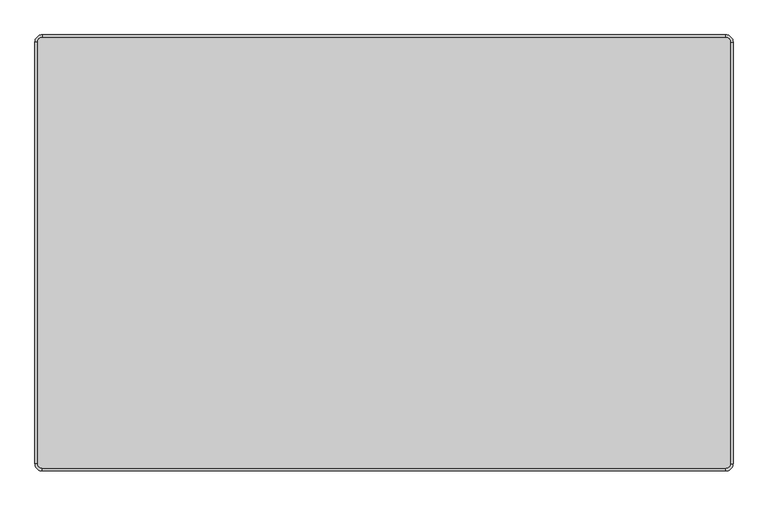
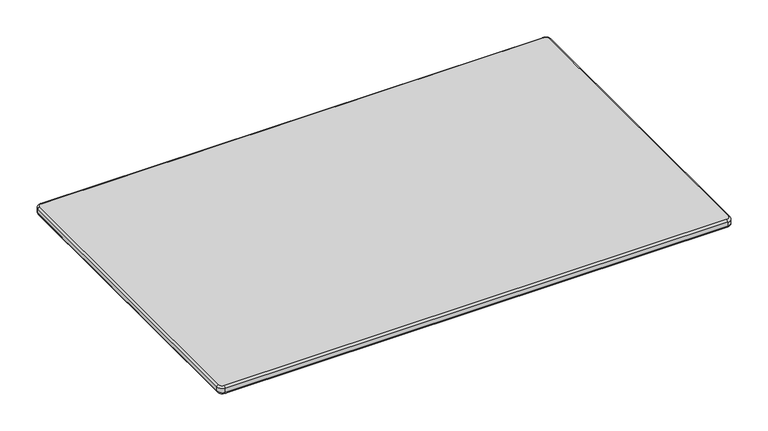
"""IFC4 building model written with IfcOpenShell, lengths in millimetres: furniture geometry, SSL-Childcraft_Outdoor-Table-Rectangle : 2161355."""

from ifc_helpers import new_model, si_unit, point, frame, origin, place, context, project, spatial, circle_curve, ellipse_curve, trimmed, source, transform, mapped, element, save
from ifc_brep_helpers import plane_surface, cylinder_surface, revolved_surface, advanced_brep


def furniture_6a51af63(model_context):
    return source(origin(), model_context, "Body", "AdvancedBrep", [
        advanced_brep(
        [(604.8375, 368.3, 609.6), (596.9, 376.2375, 609.6), (-596.9, 376.2375, 609.6), (-604.8375, 368.3, 609.6), (-604.8375, -368.3, 609.6), (-596.9, -376.2375, 609.6), (596.9, -376.2375, 609.6), (604.8375, -368.3, 609.6), (596.9, 376.2375, 590.55), (604.8375, 368.3, 590.55), (604.8375, -368.3, 590.55), (596.9, -376.2375, 590.55), (-596.9, -376.2375, 590.55), (-604.8375, -368.3, 590.55), (-604.8375, 368.3, 590.55), (-596.9, 376.2375, 590.55), (609.6, 368.3, 595.3125), (609.6, 368.3, 604.8375), (609.6, -368.3, 604.8375), (609.6, -368.3, 595.3125), (596.9, -381.0, 595.3125), (596.9, -381.0, 604.8375), (-596.9, -381.0, 604.8375), (-596.9, -381.0, 595.3125), (-609.6, -368.3, 604.8375), (-609.6, -368.3, 595.3125), (-609.6, 368.3, 604.8375), (-609.6, 368.3, 595.3125), (-596.9, 381.0, 595.3125), (-596.9, 381.0, 604.8375), (596.9, 381.0, 604.8375), (596.9, 381.0, 595.3125)],
        [
            (0, 1, circle_curve(frame((596.9, 368.3, 609.6), z_axis=(0.0, 0.0, 1.0), x_axis=(0.0, 1.0, 0.0)), 7.9375)),
            (1, 2),
            (2, 3, circle_curve(frame((-596.9, 368.3, 609.6), z_axis=(0.0, 0.0, 1.0), x_axis=(-1.0, 0.0, 0.0)), 7.9375)),
            (3, 4),
            (4, 5, circle_curve(frame((-596.9, -368.3, 609.6), z_axis=(0.0, 0.0, 1.0), x_axis=(0.0, -1.0, 0.0)), 7.9375)),
            (5, 6),
            (6, 7, circle_curve(frame((596.9, -368.3, 609.6), z_axis=(0.0, 0.0, 1.0), x_axis=(1.0, 0.0, 0.0)), 7.9375)),
            (7, 0),
            (8, 9, circle_curve(frame((596.9, 368.3, 590.55), z_axis=(0.0, 0.0, -1.0), x_axis=(0.0, 1.0, 0.0)), 7.9375)),
            (9, 10),
            (10, 11, circle_curve(frame((596.9, -368.3, 590.55), z_axis=(0.0, 0.0, -1.0), x_axis=(1.0, 0.0, 0.0)), 7.9375)),
            (11, 12),
            (12, 13, circle_curve(frame((-596.9, -368.3, 590.55), z_axis=(0.0, 0.0, -1.0), x_axis=(0.0, -1.0, 0.0)), 7.9375)),
            (13, 14),
            (14, 15, circle_curve(frame((-596.9, 368.3, 590.55), z_axis=(0.0, 0.0, -1.0), x_axis=(-1.0, 0.0, 0.0)), 7.9375)),
            (15, 8),
            (16, 17),
            (17, 18),
            (18, 19),
            (19, 16),
            (20, 21),
            (21, 22),
            (22, 23),
            (23, 20),
            (22, 24, circle_curve(frame((-596.9, -368.3, 604.8375), z_axis=(0.0, 0.0, -1.0), x_axis=(0.0, -1.0, 0.0)), 12.7)),
            (24, 25),
            (25, 23, circle_curve(frame((-596.9, -368.3, 595.3125), z_axis=(0.0, 0.0, 1.0), x_axis=(0.0, -1.0, 0.0)), 12.7)),
            (24, 26),
            (26, 27),
            (27, 25),
            (28, 29),
            (29, 30),
            (30, 31),
            (31, 28),
            (17, 30, circle_curve(frame((596.9, 368.3, 604.8375), z_axis=(0.0, 0.0, 1.0), x_axis=(0.0, 1.0, 0.0)), 12.7)),
            (30, 1, circle_curve(frame((596.9, 376.2375, 604.8375), z_axis=(1.0, 0.0, 0.0), x_axis=(0.0, 1.0, 0.0)), 4.7625)),
            (0, 17, circle_curve(frame((604.8375, 368.3, 604.8375), z_axis=(0.0, 1.0, 0.0), x_axis=(1.0, 0.0, 0.0)), 4.7625)),
            (16, 31, circle_curve(frame((596.9, 368.3, 595.3125), z_axis=(0.0, 0.0, 1.0), x_axis=(0.0, 1.0, 0.0)), 12.7)),
            (16, 9, circle_curve(frame((604.8375, 368.3, 595.3125), z_axis=(0.0, 1.0, 0.0), x_axis=(1.0, 0.0, 0.0)), 4.7625)),
            (8, 31, circle_curve(frame((596.9, 376.2375, 595.3125), z_axis=(1.0, 0.0, 0.0), x_axis=(0.0, 1.0, 0.0)), 4.7625)),
            (7, 18, circle_curve(frame((604.8375, -368.3, 604.8375), z_axis=(0.0, 1.0, 0.0), x_axis=(1.0, 0.0, 0.0)), 4.7625)),
            (19, 10, circle_curve(frame((604.8375, -368.3, 595.3125), z_axis=(0.0, 1.0, 0.0), x_axis=(1.0, 0.0, 0.0)), 4.7625)),
            (6, 21, circle_curve(frame((596.9, -376.2375, 604.8375), z_axis=(1.0, 0.0, 0.0), x_axis=(0.0, -1.0, 0.0)), 4.7625)),
            (21, 18, circle_curve(frame((596.9, -368.3, 604.8375), z_axis=(0.0, 0.0, 1.0), x_axis=(1.0, 0.0, 0.0)), 12.7)),
            (20, 19, circle_curve(frame((596.9, -368.3, 595.3125), z_axis=(0.0, 0.0, 1.0), x_axis=(1.0, 0.0, 0.0)), 12.7)),
            (20, 11, circle_curve(frame((596.9, -376.2375, 595.3125), z_axis=(1.0, 0.0, 0.0), x_axis=(0.0, -1.0, 0.0)), 4.7625)),
            (5, 22, circle_curve(frame((-596.9, -376.2375, 604.8375), z_axis=(1.0, 0.0, 0.0), x_axis=(0.0, -1.0, 0.0)), 4.7625)),
            (23, 12, circle_curve(frame((-596.9, -376.2375, 595.3125), z_axis=(1.0, 0.0, 0.0), x_axis=(0.0, -1.0, 0.0)), 4.7625)),
            (4, 24, circle_curve(frame((-604.8375, -368.3, 604.8375), z_axis=(0.0, -1.0, 0.0), x_axis=(-1.0, 0.0, 0.0)), 4.7625)),
            (25, 13, circle_curve(frame((-604.8375, -368.3, 595.3125), z_axis=(0.0, -1.0, 0.0), x_axis=(-1.0, 0.0, 0.0)), 4.7625)),
            (3, 26, circle_curve(frame((-604.8375, 368.3, 604.8375), z_axis=(0.0, -1.0, 0.0), x_axis=(-1.0, 0.0, 0.0)), 4.7625)),
            (27, 14, circle_curve(frame((-604.8375, 368.3, 595.3125), z_axis=(0.0, -1.0, 0.0), x_axis=(-1.0, 0.0, 0.0)), 4.7625)),
            (2, 29, circle_curve(frame((-596.9, 376.2375, 604.8375), z_axis=(-1.0, 0.0, 0.0), x_axis=(0.0, 1.0, 0.0)), 4.7625)),
            (29, 26, circle_curve(frame((-596.9, 368.3, 604.8375), z_axis=(0.0, 0.0, 1.0), x_axis=(-1.0, 0.0, 0.0)), 12.7)),
            (28, 27, circle_curve(frame((-596.9, 368.3, 595.3125), z_axis=(0.0, 0.0, 1.0), x_axis=(-1.0, 0.0, 0.0)), 12.7)),
            (28, 15, circle_curve(frame((-596.9, 376.2375, 595.3125), z_axis=(-1.0, 0.0, 0.0), x_axis=(0.0, 1.0, 0.0)), 4.7625)),
        ],
        [
            plane_surface(frame((-596.9, 371.475, 609.6), z_axis=(0.0, 0.0, 1.0), x_axis=(-1.0, 0.0, 0.0))),
            plane_surface(frame((-596.9, 371.475, 590.55), z_axis=(0.0, 0.0, -1.0), x_axis=(1.0, 0.0, 0.0))),
            plane_surface(frame((609.6, 368.3, 604.8375), z_axis=(1.0, 0.0, 0.0), x_axis=(0.0, -1.0, 0.0))),
            plane_surface(frame((596.9, -381.0, 604.8375), z_axis=(0.0, -1.0, 0.0), x_axis=(-1.0, 0.0, 0.0))),
            cylinder_surface(frame((-596.9, -368.3, 0.0), z_axis=(0.0, 0.0, -1.0), x_axis=(0.0, -1.0, 0.0)), 12.7),
            plane_surface(frame((-609.6, -368.3, 604.8375), z_axis=(-1.0, 0.0, 0.0), x_axis=(0.0, 1.0, 0.0))),
            plane_surface(frame((-596.9, 381.0, 604.8375), z_axis=(0.0, 1.0, 0.0), x_axis=(1.0, 0.0, 0.0))),
            revolved_surface(trimmed(ellipse_curve(frame((596.9, 376.2375, 604.8375), z_axis=(-1.0, 0.0, 0.0), x_axis=(0.0, 1.0, 0.0)), 4.7625, 4.7625), [point((596.9, 376.2375, 609.6))], [point((596.9, 381.0, 604.8375))], True, "CARTESIAN"), (596.9, 368.3, 0.0), (0.0, 0.0, -1.0)),
            cylinder_surface(frame((596.9, 368.3, 0.0), z_axis=(0.0, 0.0, -1.0), x_axis=(0.0, 1.0, 0.0)), 12.7),
            revolved_surface(trimmed(ellipse_curve(frame((596.9, 376.2375, 595.3125), z_axis=(-1.0, 0.0, 0.0), x_axis=(0.0, 1.0, 0.0)), 4.7625, 4.7625), [point((596.9, 381.0, 595.3125))], [point((596.9, 376.2375, 590.55))], True, "CARTESIAN"), (596.9, 368.3, 0.0), (0.0, 0.0, -1.0)),
            cylinder_surface(frame((604.8375, 368.3, 604.8375), z_axis=(0.0, 1.0, 0.0), x_axis=(1.0, 0.0, 0.0)), 4.7625),
            cylinder_surface(frame((604.8375, 368.3, 595.3125), z_axis=(0.0, 1.0, 0.0), x_axis=(1.0, 0.0, 0.0)), 4.7625),
            revolved_surface(trimmed(ellipse_curve(frame((604.8375, -368.3, 604.8375), z_axis=(0.0, 1.0, 0.0), x_axis=(1.0, 0.0, 0.0)), 4.7625, 4.7625), [point((604.8375, -368.3, 609.6))], [point((609.6, -368.3, 604.8375))], True, "CARTESIAN"), (596.9, -368.3, 0.0), (0.0, 0.0, -1.0)),
            cylinder_surface(frame((596.9, -368.3, 0.0), z_axis=(0.0, 0.0, -1.0), x_axis=(1.0, 0.0, 0.0)), 12.7),
            revolved_surface(trimmed(ellipse_curve(frame((604.8375, -368.3, 595.3125), z_axis=(0.0, 1.0, 0.0), x_axis=(1.0, 0.0, 0.0)), 4.7625, 4.7625), [point((609.6, -368.3, 595.3125))], [point((604.8375, -368.3, 590.55))], True, "CARTESIAN"), (596.9, -368.3, 0.0), (0.0, 0.0, -1.0)),
            cylinder_surface(frame((596.9, -376.2375, 604.8375), z_axis=(1.0, 0.0, 0.0), x_axis=(0.0, -1.0, 0.0)), 4.7625),
            cylinder_surface(frame((596.9, -376.2375, 595.3125), z_axis=(1.0, 0.0, 0.0), x_axis=(0.0, -1.0, 0.0)), 4.7625),
            revolved_surface(trimmed(ellipse_curve(frame((-596.9, -376.2375, 604.8375), z_axis=(1.0, 0.0, 0.0), x_axis=(0.0, -1.0, 0.0)), 4.7625, 4.7625), [point((-596.9, -376.2375, 609.6))], [point((-596.9, -381.0, 604.8375))], True, "CARTESIAN"), (-596.9, -368.3, 0.0), (0.0, 0.0, -1.0)),
            revolved_surface(trimmed(ellipse_curve(frame((-596.9, -376.2375, 595.3125), z_axis=(1.0, 0.0, 0.0), x_axis=(0.0, -1.0, 0.0)), 4.7625, 4.7625), [point((-596.9, -381.0, 595.3125))], [point((-596.9, -376.2375, 590.55))], True, "CARTESIAN"), (-596.9, -368.3, 0.0), (0.0, 0.0, -1.0)),
            cylinder_surface(frame((-604.8375, -368.3, 604.8375), z_axis=(0.0, -1.0, 0.0), x_axis=(-1.0, 0.0, 0.0)), 4.7625),
            cylinder_surface(frame((-604.8375, -368.3, 595.3125), z_axis=(0.0, -1.0, 0.0), x_axis=(-1.0, 0.0, 0.0)), 4.7625),
            revolved_surface(trimmed(ellipse_curve(frame((-604.8375, 368.3, 604.8375), z_axis=(0.0, -1.0, 0.0), x_axis=(-1.0, 0.0, 0.0)), 4.7625, 4.7625), [point((-604.8375, 368.3, 609.6))], [point((-609.6, 368.3, 604.8375))], True, "CARTESIAN"), (-596.9, 368.3, 0.0), (0.0, 0.0, -1.0)),
            cylinder_surface(frame((-596.9, 368.3, 0.0), z_axis=(0.0, 0.0, -1.0), x_axis=(-1.0, 0.0, 0.0)), 12.7),
            revolved_surface(trimmed(ellipse_curve(frame((-604.8375, 368.3, 595.3125), z_axis=(0.0, -1.0, 0.0), x_axis=(-1.0, 0.0, 0.0)), 4.7625, 4.7625), [point((-609.6, 368.3, 595.3125))], [point((-604.8375, 368.3, 590.55))], True, "CARTESIAN"), (-596.9, 368.3, 0.0), (0.0, 0.0, -1.0)),
            cylinder_surface(frame((-596.9, 376.2375, 604.8375), z_axis=(-1.0, 0.0, 0.0), x_axis=(0.0, 1.0, 0.0)), 4.7625),
            cylinder_surface(frame((-596.9, 376.2375, 595.3125), z_axis=(-1.0, 0.0, 0.0), x_axis=(0.0, 1.0, 0.0)), 4.7625),
        ],
        [
            (0, [[1, 2, 3, 4, 5, 6, 7, 8]]),
            (1, [[9, 10, 11, 12, 13, 14, 15, 16]]),
            (2, [[17, 18, 19, 20]]),
            (3, [[21, 22, 23, 24]]),
            (4, [[-23, 25, 26, 27]]),
            (5, [[-26, 28, 29, 30]]),
            (6, [[31, 32, 33, 34]]),
            (7, [[35, 36, -1, 37]]),
            (8, [[-17, 38, -33, -35]]),
            (9, [[-38, 39, -9, 40]]),
            (10, [[-18, -37, -8, 41]]),
            (11, [[-20, 42, -10, -39]]),
            (12, [[-41, -7, 43, 44]]),
            (13, [[-19, -44, -21, 45]]),
            (14, [[-42, -45, 46, -11]]),
            (15, [[-22, -43, -6, 47]]),
            (16, [[-24, 48, -12, -46]]),
            (17, [[-25, -47, -5, 49]]),
            (18, [[-27, 50, -13, -48]]),
            (19, [[-28, -49, -4, 51]]),
            (20, [[-30, 52, -14, -50]]),
            (21, [[-51, -3, 53, 54]]),
            (22, [[-29, -54, -31, 55]]),
            (23, [[-52, -55, 56, -15]]),
            (24, [[-32, -53, -2, -36]]),
            (25, [[-34, -40, -16, -56]]),
        ],
    ),
    ])


if __name__ == "__main__":
    model = new_model("IFC4")
    model_context = context("Model", 3, world=origin())
    ifc_project = project(units=[si_unit("LENGTHUNIT", "METRE", prefix="MILLI")], contexts=[model_context])
    site = spatial("IfcSite", under=ifc_project)
    building = spatial("IfcBuilding", under=site)
    placement = place(None, origin())
    furniture_shape = furniture_6a51af63(model_context)
    element("IfcFurniture", 1, ObjectType="SSL-Childcraft_Outdoor-Table-Rectangle : 2161355", at=placement, inside=building, context=model_context, shape_type="MappedRepresentation", body=[
        mapped(furniture_shape, transform((0.0, 0.0, 0.0), x_axis=(1.0, 0.0, 0.0), y_axis=(0.0, 1.0, 0.0), z_axis=(0.0, 0.0, 1.0))),
    ])
    save(model, "model.ifc")
